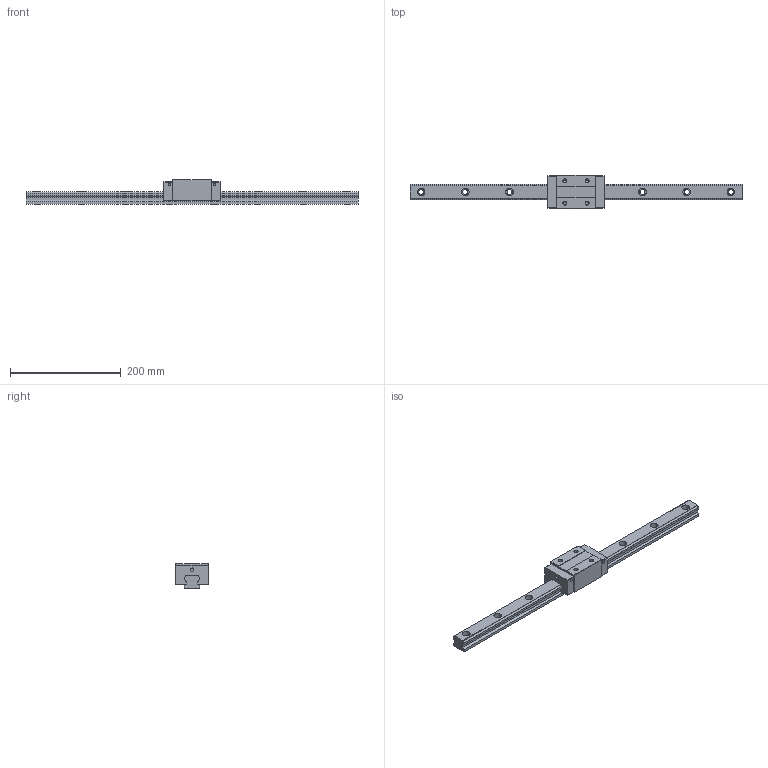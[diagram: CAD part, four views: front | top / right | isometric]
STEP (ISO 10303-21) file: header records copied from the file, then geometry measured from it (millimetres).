
FILE_DESCRIPTION (( 'STEP AP203' ), '1' );
FILE_NAME ('TRH30VN-SU.STEP', '2024-06-26T04:05:16', ( '' ), ( '' ), 'SwSTEP 2.0', 'SolidWorks 2022', '' );
FILE_SCHEMA (( 'CONFIG_CONTROL_DESIGN' ));
Length unit declared in the file: millimetre
Products named in the file (1): TRH30VN-SU
Bounding box: 600 x 60 x 45 mm (x, y, z)
Volume: 502124.9 mm3; surface area: 98492.7 mm2
Topology: 2 solids, 2 shells, 186 faces, 488 edges, 316 vertices
Faces by surface type: cylinder 88, plane 82, cone 16
Entity records: 5819 total; most frequent: DIRECTION 1038, CARTESIAN_POINT 983, ORIENTED_EDGE 960, EDGE_CURVE 480, AXIS2_PLACEMENT_3D 371, VERTEX_POINT 316, LINE 296, VECTOR 296
